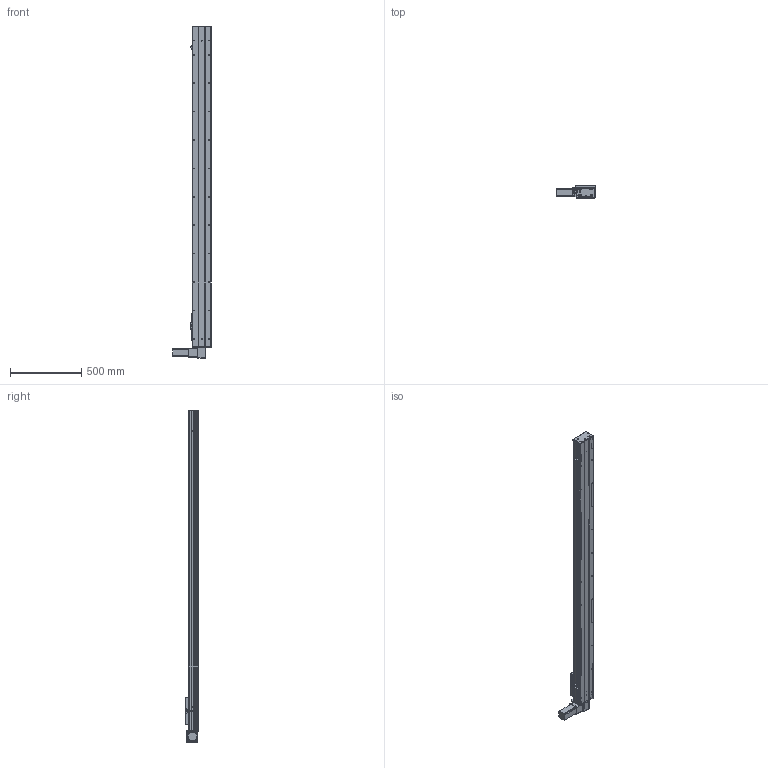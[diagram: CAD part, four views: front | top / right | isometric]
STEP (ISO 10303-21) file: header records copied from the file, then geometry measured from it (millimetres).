
FILE_DESCRIPTION (( 'STEP AP203' ), '1' );
FILE_NAME ('Y135CB-D90-S1950-BD-P400W.STEP', '2020-02-19T03:53:39', ( '微软用户' ), ( '微软中国' ), 'SwSTEP 2.0', 'SolidWorks 2017', '' );
FILE_SCHEMA (( 'CONFIG_CONTROL_DESIGN' ));
Length unit declared in the file: millimetre
Products named in the file (16): 0B-薊粣ん眊; 5CB --掛极耜裔啣-; Y135CB-D90-S1950-BD-P400W; C-詩湍揤踡え-陔; 135CB--詩湍-CE; Y135CB-耜裔; Y100-135俋离換覜ん--; 135CB---遴掛极.-; Y135C-陔俋离換覜結え-; 35CB---喘謫眊楊擘啣; 5C--俋欶; 0B-埴倛裔啣; C-雄赽釱--; 0B-源倛裔啣; Y10B--々湍喘謫眊--666; san松下电机400不带刹车----
Assembly tree (19 placements, depth 2):
  Y135CB-D90-S1950-BD-P400W
    Y135CB-耜裔
    135CB---遴掛极.-
    35CB---喘謫眊楊擘啣
    0B-埴倛裔啣
    0B-源倛裔啣
    san松下电机400不带刹车----
    5CB --掛极耜裔啣-  x2
    C-詩湍揤踡え-陔  x2
    135CB--詩湍-CE
    Y100-135俋离換覜ん--  x3
    Y135C-陔俋离換覜結え-
    5C--俋欶
    C-雄赽釱--
    Y10B--々湍喘謫眊--666
    0B-薊粣ん眊
Bounding box: 272 x 91 x 2338 mm (x, y, z)
Volume: 6853801.1 mm3; surface area: 2662919.5 mm2
Topology: 19 solids, 19 shells, 875 faces, 2356 edges, 1560 vertices
Faces by surface type: cylinder 444, plane 415, cone 16
Entity records: 27016 total; most frequent: DIRECTION 4504, CARTESIAN_POINT 4467, ORIENTED_EDGE 4188, EDGE_CURVE 2094, AXIS2_PLACEMENT_3D 1657, VERTEX_POINT 1388, VECTOR 1190, LINE 1190
